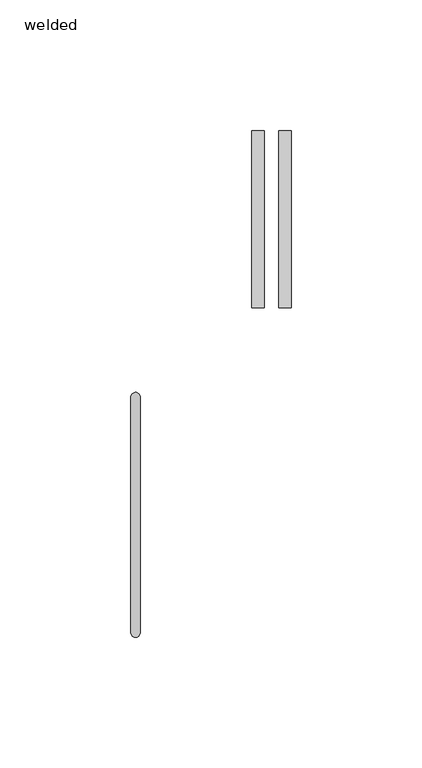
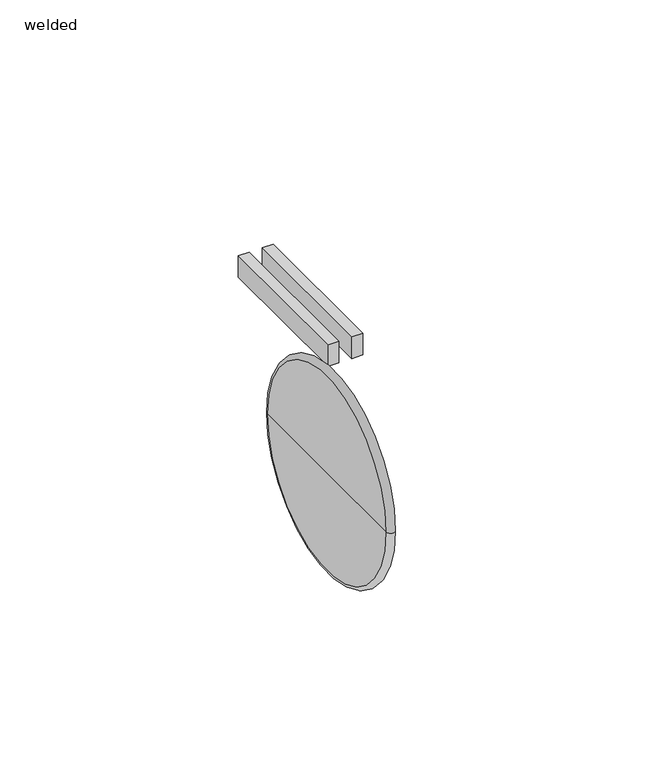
"""IFC4 building model written with IfcOpenShell, lengths in millimetres: pipe fitting geometry, PIF_HDPE weld_Akatherm : welded."""

import ifcopenshell
import ifcopenshell.guid

model = None  # the IFC model being written
_history = None  # IfcOwnerHistory: only IFC2X3 demands one
_inside = {}  # id of a spatial element -> (the spatial element, [elements in it])
_under = {}  # id of a project, library or spatial element -> (it, [spatial elements below it])
_declared = {}  # id of a project -> (the project, [libraries it declares])
_typed = {}  # id of a type object -> (the type object, [elements of that type])
_made_of = {}  # id of a material, layer set ... -> (it, [elements and type objects made of it])


def new_model(schema):
    """Start an empty IFC model of exactly this schema.

    Asked for "IFC4X3", IfcOpenShell would pick the latest addendum, in which some entities
    have other attributes; the version numbers below select the first issue.
    IFC2X3 requires an IfcOwnerHistory on every rooted entity: one is made here for all.
    """
    global model, _history
    if schema == "IFC4X3":
        model = ifcopenshell.file(schema_version=(4, 3, 0, 0))
    else:
        model = ifcopenshell.file(schema=schema)
    _inside.clear()
    _under.clear()
    _declared.clear()
    _typed.clear()
    _made_of.clear()
    _history = None
    if model.schema == "IFC2X3":
        org = make("IfcOrganization", Name="unknown")
        user = make(
            "IfcPersonAndOrganization",
            ThePerson=make("IfcPerson", FamilyName="unknown"),
            TheOrganization=org,
        )
        app = make(
            "IfcApplication",
            ApplicationDeveloper=org,
            Version="unknown",
            ApplicationFullName="unknown",
            ApplicationIdentifier="unknown",
        )
        _history = make(
            "IfcOwnerHistory",
            OwningUser=user,
            OwningApplication=app,
            ChangeAction="ADDED",
            CreationDate=0,
        )
    return model


def make(cls, **values):
    """One entity of the class cls with the attributes given. An attribute that is None is left unset."""
    return model.create_entity(
        cls, **{name: value for name, value in values.items() if value is not None}
    )


def rooted(cls, **values):
    """An entity with a GlobalId (a new one), such as an element, a storey or a relation."""
    return make(cls, GlobalId=ifcopenshell.guid.new(), OwnerHistory=_history, **values)


def si_unit(unit_type, name, prefix=None):
    """IfcSIUnit, for example si_unit("LENGTHUNIT", "METRE", prefix="MILLI")."""
    return make("IfcSIUnit", UnitType=unit_type, Prefix=prefix, Name=name)


def assignment(units):
    """IfcUnitAssignment: the units of a project."""
    return None if units is None else make("IfcUnitAssignment", Units=units)


def point(xyz):
    """IfcCartesianPoint."""
    return None if xyz is None else make("IfcCartesianPoint", Coordinates=xyz)


def direction(xyz):
    """IfcDirection."""
    return None if xyz is None else make("IfcDirection", DirectionRatios=xyz)


def frame(location, z_axis=None, x_axis=None):
    """IfcAxis2Placement3D, a coordinate frame: its origin and axes. An axis left out is left unset."""
    return make(
        "IfcAxis2Placement3D",
        Location=point(location),
        Axis=direction(z_axis),
        RefDirection=direction(x_axis),
    )


def origin():
    """The frame at (0, 0, 0) with its axes left unset."""
    return frame((0.0, 0.0, 0.0))


def place(relative_to, where):
    """IfcLocalPlacement: puts the frame where relative to a parent placement (None: the world)."""
    return make(
        "IfcLocalPlacement", PlacementRelTo=relative_to, RelativePlacement=where
    )


def context(
    kind, dimensions, precision=None, world=None, true_north=None, identifier=None
):
    """IfcGeometricRepresentationContext, for example the 3D "Model" context."""
    return make(
        "IfcGeometricRepresentationContext",
        ContextIdentifier=identifier,
        ContextType=kind,
        CoordinateSpaceDimension=dimensions,
        Precision=precision,
        WorldCoordinateSystem=world,
        TrueNorth=true_north,
    )


def project(units=None, contexts=None):
    """IfcProject with its units and contexts."""
    return rooted(
        "IfcProject",
        Name="project",
        RepresentationContexts=contexts,
        UnitsInContext=assignment(units),
    )


def spatial(cls, under=None, at=None, **own):
    """A site, building, storey or space (cls), placed at a placement, below another one or the project."""
    s = rooted(cls, ObjectPlacement=at, **own)
    if under is not None:
        _under.setdefault(under.id(), (under, []))[1].append(s)
    return s


def polyline(points):
    """IfcPolyline through the points."""
    return make("IfcPolyline", Points=[point(p) for p in points])


def circle_curve(where, radius):
    """IfcCircle in the frame where."""
    return make("IfcCircle", Position=where, Radius=radius)


def ellipse_curve(where, semi_axis1, semi_axis2):
    """IfcEllipse in the frame where."""
    return make(
        "IfcEllipse", Position=where, SemiAxis1=semi_axis1, SemiAxis2=semi_axis2
    )


def trimmed(basis, trim1, trim2, sense, master):
    """IfcTrimmedCurve: the piece of a basis curve between two trims."""
    return make(
        "IfcTrimmedCurve",
        BasisCurve=basis,
        Trim1=trim1,
        Trim2=trim2,
        SenseAgreement=sense,
        MasterRepresentation=master,
    )


def outline(outer, holes=None, kind="AREA"):
    """IfcArbitraryClosedProfileDef: a profile drawn as a closed curve; with holes, ...WithVoids."""
    if holes is None:
        return make("IfcArbitraryClosedProfileDef", ProfileType=kind, OuterCurve=outer)
    return make(
        "IfcArbitraryProfileDefWithVoids",
        ProfileType=kind,
        OuterCurve=outer,
        InnerCurves=holes,
    )


def extrude(swept, where, along, depth):
    """IfcExtrudedAreaSolid: the profile swept, set in the frame where, extruded along a direction by depth."""
    return make(
        "IfcExtrudedAreaSolid",
        SweptArea=swept,
        Position=where,
        ExtrudedDirection=direction(along),
        Depth=depth,
    )


def shape(context_of_items, identifier, shape_type, items):
    """IfcShapeRepresentation: the items that make up one representation, for example the "Body"."""
    return make(
        "IfcShapeRepresentation",
        ContextOfItems=context_of_items,
        RepresentationIdentifier=identifier,
        RepresentationType=shape_type,
        Items=items,
    )


def source(mapping_origin, context_of_items, identifier, shape_type, items):
    """IfcRepresentationMap: a shape defined once, which mapped items show again and again."""
    return make(
        "IfcRepresentationMap",
        MappingOrigin=mapping_origin,
        MappedRepresentation=shape(context_of_items, identifier, shape_type, items),
    )


def transform(
    local_origin,
    x_axis=None,
    y_axis=None,
    z_axis=None,
    scale=None,
    scale2=None,
    scale3=None,
    uniform=True,
):
    """IfcCartesianTransformationOperator3D, or its non-uniform kind. x_axis, y_axis, z_axis: its Axis1, 2, 3."""
    if uniform:
        return make(
            "IfcCartesianTransformationOperator3D",
            Axis1=direction(x_axis),
            Axis2=direction(y_axis),
            LocalOrigin=point(local_origin),
            Scale=scale,
            Axis3=direction(z_axis),
        )
    return make(
        "IfcCartesianTransformationOperator3DnonUniform",
        Axis1=direction(x_axis),
        Axis2=direction(y_axis),
        LocalOrigin=point(local_origin),
        Scale=scale,
        Axis3=direction(z_axis),
        Scale2=scale2,
        Scale3=scale3,
    )


def mapped(mapping_source, mapping_target):
    """IfcMappedItem: shows the shape of a source again, moved by a transform."""
    return make(
        "IfcMappedItem", MappingSource=mapping_source, MappingTarget=mapping_target
    )


def made_of(thing, what):
    """Note that an element or type object is made of a material, layer set ...; save() writes the relation."""
    if what is not None:
        _made_of.setdefault(what.id(), (what, []))[1].append(thing)
    return thing


def element(
    cls,
    number,
    at=None,
    inside=None,
    cuts=None,
    type_object=None,
    material=None,
    context=None,
    identifier="Body",
    shape_type=None,
    held_by="IfcProductDefinitionShape",
    body=None,
    shapes=None,
    **own,
):
    """One element of the class cls, such as IfcWall. Its Tag is "e" and its number.

    at: its placement. inside: the storey or other place that contains it. cuts: it is an
    opening in that element (IfcRelVoidsElement). A single representation is given by context,
    identifier, shape_type and body (its items); several are given by shapes. held_by: the class
    of the entity that holds the representations. save() writes the other relations.
    """
    e = rooted(cls, Tag="e%d" % number, ObjectPlacement=at, **own)
    if body is not None:
        shapes = [shape(context, identifier, shape_type, body)]
    if shapes is not None:
        e.Representation = make(held_by, Representations=shapes)
    if inside is not None:
        _inside.setdefault(inside.id(), (inside, []))[1].append(e)
    if cuts is not None:
        rooted(
            "IfcRelVoidsElement", RelatingBuildingElement=cuts, RelatedOpeningElement=e
        )
    if type_object is not None:
        _typed.setdefault(type_object.id(), (type_object, []))[1].append(e)
    return made_of(e, material)


def aggregate(whole, parts):
    """IfcRelAggregates: a whole, such as a stair, and the parts it consists of."""
    return rooted("IfcRelAggregates", RelatingObject=whole, RelatedObjects=parts)


def save(model, path):
    """Write the relations noted so far, then the file.

    IfcRelAggregates (storeys below a building ...), IfcRelContainedInSpatialStructure (elements
    in a storey), IfcRelDefinesByType, IfcRelAssociatesMaterial and IfcRelDeclares: one each for
    every whole, place, type object, material and project.
    """
    for whole, parts in _under.values():
        aggregate(whole, parts)
    for where, things in _inside.values():
        rooted(
            "IfcRelContainedInSpatialStructure",
            RelatedElements=things,
            RelatingStructure=where,
        )
    for kind, things in _typed.values():
        rooted("IfcRelDefinesByType", RelatedObjects=things, RelatingType=kind)
    for what, things in _made_of.values():
        rooted("IfcRelAssociatesMaterial", RelatedObjects=things, RelatingMaterial=what)
    for by, libraries in _declared.values():
        rooted("IfcRelDeclares", RelatingContext=by, RelatedDefinitions=libraries)
    model.write(path)


def plane_surface(at):
    """IfcPlane: the flat surface through the origin of the frame at, square to its z axis."""
    return make("IfcPlane", Position=at)


def revolved_surface(curve, axis_point, axis_direction):
    """IfcSurfaceOfRevolution: the curve turned about the line through axis_point along axis_direction."""
    return make(
        "IfcSurfaceOfRevolution",
        SweptCurve=make("IfcArbitraryOpenProfileDef", ProfileType="CURVE", Curve=curve),
        AxisPosition=make("IfcAxis1Placement", Location=point(axis_point), Axis=direction(axis_direction)),
    )


def advanced_brep(points, edges, surfaces, faces):
    """IfcAdvancedBrep: a solid bounded by faces that lie on surfaces and meet in shared edges.

    An edge is (start, end): straight between two places in points (the first is 0);
    or (start, end, curve); or (start, end, curve, False) where it runs against its curve.
    A face is (place in surfaces, loops), or (place, loops, False) where it looks against
    its surface's normal. A loop lists edges by number (the first is 1), with a minus sign
    where the edge is run from its end to its start. The first loop is the outer one.
    """
    corners = [point(p) for p in points]
    vertices = [make("IfcVertexPoint", VertexGeometry=c) for c in corners]
    made = []
    for start, end, *more in edges:
        made.append(
            make(
                "IfcEdgeCurve",
                EdgeStart=vertices[start],
                EdgeEnd=vertices[end],
                EdgeGeometry=more[0] if more else make("IfcPolyline", Points=[corners[start], corners[end]]),
                SameSense=more[1] if len(more) > 1 else True,
            )
        )
    hull = []
    for where, loops, *sense in faces:
        bounds = []
        for j, loop in enumerate(loops):
            ring = [make("IfcOrientedEdge", EdgeElement=made[abs(k) - 1], Orientation=k > 0) for k in loop]
            bounds.append(
                make(
                    "IfcFaceOuterBound" if j == 0 else "IfcFaceBound",
                    Bound=make("IfcEdgeLoop", EdgeList=ring),
                    Orientation=True,
                )
            )
        hull.append(make("IfcAdvancedFace", Bounds=bounds, FaceSurface=surfaces[where], SameSense=sense[0] if sense else True))
    return make("IfcAdvancedBrep", Outer=make("IfcClosedShell", CfsFaces=hull))


def welded_158fee2e(model_context):
    return source(origin(), model_context, "Body", "SolidModel", [
        extrude(outline(polyline([(42.5311847, 146.9421922), (47.3087456, 146.9421922), (47.3087456, 79.143993), (42.5311847, 79.143993), (42.5311847, 146.9421922)])), frame((0.0, 0.0, -15.0), z_axis=(0.0, 0.0, 1.0), x_axis=(1.0, 0.0, 0.0)), (0.0, 0.0, 1.0), 10.0),
        extrude(outline(polyline([(52.9005519, 146.9421922), (57.6781127, 146.9421922), (57.6781127, 79.143993), (52.9005519, 79.143993), (52.9005519, 146.9421922)])), frame((0.0, 0.0, -15.0), z_axis=(0.0, 0.0, 1.0), x_axis=(1.0, 0.0, 0.0)), (0.0, 0.0, 1.0), 10.0),
        advanced_brep(
        [(-3.7, 45.0, 0.0), (0.0, 45.0, 0.0), (0.0, -45.0, 0.0), (-3.7, -45.0, 0.0), (-3.7, 0.0, 0.0), (0.0, 0.0, 0.0)],
        [
            (0, 1, circle_curve(frame((-1.85, 45.0, 0.0), z_axis=(0.0, 0.0, -1.0), x_axis=(1.0, 0.0, 0.0)), 1.85)),
            (1, 2, circle_curve(frame((0.0, 0.0, 0.0), z_axis=(-1.0, 0.0, 0.0), x_axis=(0.0, -1.0, 0.0)), 45.0)),
            (2, 3, circle_curve(frame((-1.85, -45.0, 0.0), z_axis=(0.0, 0.0, -1.0), x_axis=(1.0, 0.0, 0.0)), 1.85)),
            (3, 0, circle_curve(frame((-3.7, 0.0, 0.0), z_axis=(1.0, 0.0, 0.0), x_axis=(0.0, -1.0, 0.0)), 45.0)),
            (2, 1, circle_curve(frame((0.0, 0.0, 0.0), z_axis=(-1.0, 0.0, 0.0), x_axis=(0.0, -1.0, 0.0)), 45.0)),
            (0, 3, circle_curve(frame((-3.7, 0.0, 0.0), z_axis=(1.0, 0.0, 0.0), x_axis=(0.0, -1.0, 0.0)), 45.0)),
            (4, 0),
            (3, 4),
            (1, 5),
            (5, 2),
        ],
        [
            revolved_surface(trimmed(ellipse_curve(frame((-1.85, -45.0, 0.0), z_axis=(0.0, 0.0, -1.0), x_axis=(1.0, 0.0, 0.0)), 1.85, 1.85), [point((0.0, -45.0, 0.0))], [point((-3.7, -45.0, 0.0))], True, "CARTESIAN"), (-41.85, 0.0, 0.0), (-1.0, 0.0, 0.0)),
            plane_surface(frame((-3.7, 0.0, 0.0), z_axis=(-1.0, 0.0, 0.0), x_axis=(0.0, -1.0, 0.0))),
            plane_surface(frame((0.0, 0.0, 0.0), z_axis=(1.0, 0.0, 0.0), x_axis=(0.0, -1.0, 0.0))),
        ],
        [
            (0, [[1, 2, 3, 4]]),
            (0, [[-3, 5, -1, 6]]),
            (1, [[7, -4, 8]]),
            (1, [[-8, -6, -7]]),
            (2, [[9, 10, -2]]),
            (2, [[-10, -9, -5]]),
        ],
    ),
    ])


if __name__ == "__main__":
    model = new_model("IFC4")
    model_context = context("Model", 3, world=origin())
    ifc_project = project(units=[si_unit("LENGTHUNIT", "METRE", prefix="MILLI")], contexts=[model_context])
    site = spatial("IfcSite", under=ifc_project)
    building = spatial("IfcBuilding", under=site)
    placement = place(None, origin())
    welded_shape = welded_158fee2e(model_context)
    element("IfcPipeFitting", 1, ObjectType="PIF_HDPE weld_Akatherm : welded", at=placement, inside=building, context=model_context, shape_type="MappedRepresentation", body=[
        mapped(welded_shape, transform((0.0, 0.0, 0.0), x_axis=(1.0, 0.0, 0.0), y_axis=(0.0, 1.0, 0.0), z_axis=(0.0, 0.0, 1.0))),
    ])
    save(model, "model.ifc")
